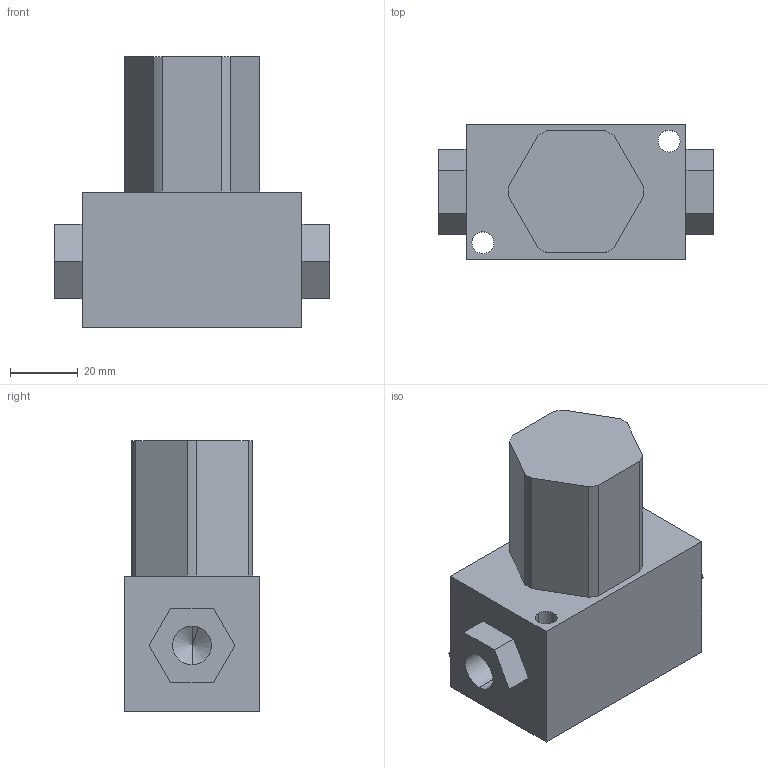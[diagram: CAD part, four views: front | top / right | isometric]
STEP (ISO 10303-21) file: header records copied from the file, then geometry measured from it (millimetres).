
FILE_DESCRIPTION((''),'2;1');
FILE_NAME('7076035_40_1_4.stp','2017-05-30T10:09:48',(''),(''),'Mechanical Desktop 2008','Mechanical Desktop 2008',', , ');
FILE_SCHEMA(('AUTOMOTIVE_DESIGN { 1 2 10303 214 1 1 1 1 }'));
Length unit declared in the file: millimetre
Products named in the file (2): 7076035_40_1_4; ~PART1
Assembly tree (1 placements, depth 2):
  7076035_40_1_4
    ~PART1
Bounding box: 81 x 40 x 80 mm (x, y, z)
Volume: 139363.2 mm3; surface area: 25047.1 mm2
Topology: 1 solids, 1 shells, 200 faces, 533 edges, 352 vertices
Faces by surface type: plane 130, bspline 48, cylinder 18, cone 4
Entity records: 6448 total; most frequent: CARTESIAN_POINT 1707, ORIENTED_EDGE 1058, DIRECTION 777, EDGE_CURVE 529, VECTOR 397, LINE 397, VERTEX_POINT 352, EDGE_LOOP 225
